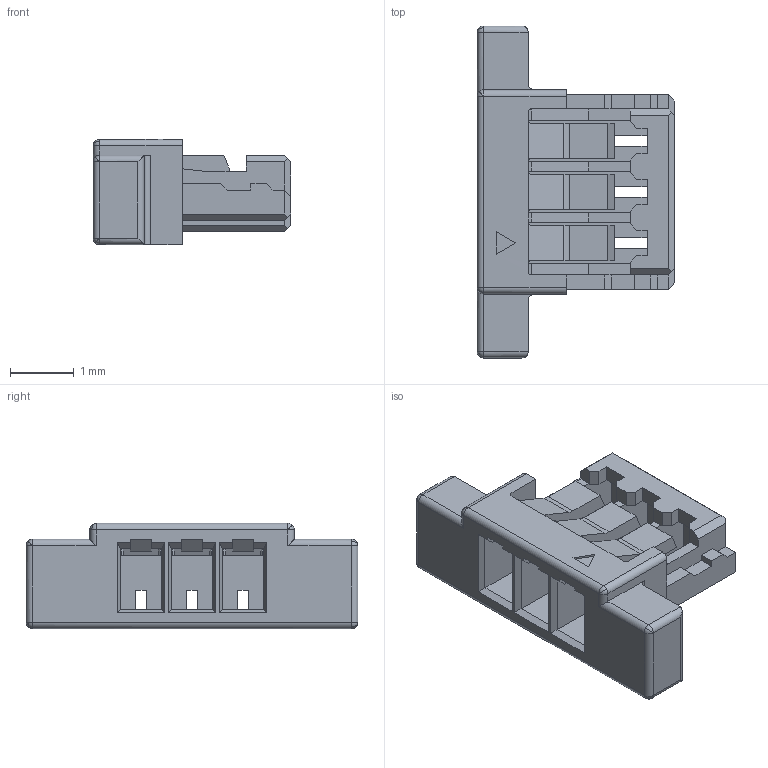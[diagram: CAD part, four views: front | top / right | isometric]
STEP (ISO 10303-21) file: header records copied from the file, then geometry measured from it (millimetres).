
FILE_DESCRIPTION((''),'2;1');
FILE_NAME('SCT0801H-03','2023-04-10T17:02:30',('Administrator'),(''),'CREO PARAMETRIC BY PTC INC, 2018050','CREO PARAMETRIC BY PTC INC, 2018050','');
FILE_SCHEMA(('CONFIG_CONTROL_DESIGN'));
Length unit declared in the file: millimetre
Products named in the file (1): SCT0801H-03
Bounding box: 3.1 x 5.2 x 1.65 mm (x, y, z)
Volume: 9.1 mm3; surface area: 72.5 mm2
Topology: 1 solids, 1 shells, 230 faces, 624 edges, 378 vertices
Faces by surface type: plane 189, cylinder 29, sphere 12
Entity records: 7081 total; most frequent: CARTESIAN_POINT 1339, ORIENTED_EDGE 1228, DIRECTION 1107, EDGE_CURVE 614, VECTOR 547, LINE 547, VERTEX_POINT 378, AXIS2_PLACEMENT_3D 280
